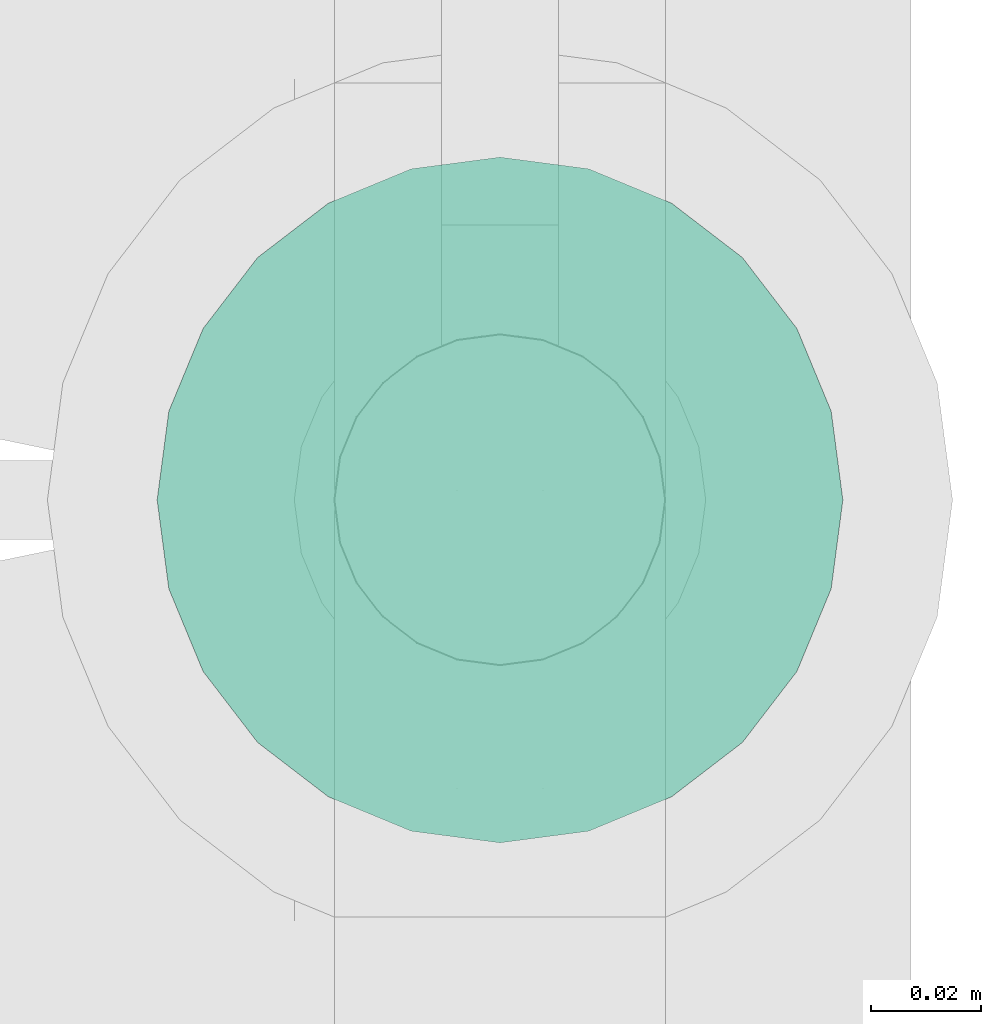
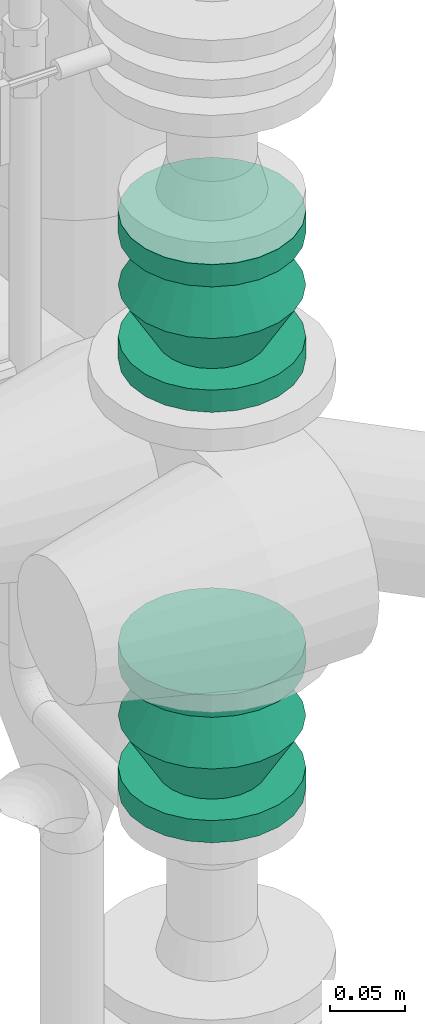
# One storey, part 287 of 374: 2 flow segments.
"""IFC2X3 building model written with IfcOpenShell, lengths in metres."""

from ifc_helpers import new_model, si_unit, direction, origin, place, context, subcontext, project, spatial, open_shell, surface_model, source, transform, mapped, element, save


model = new_model("IFC2X3")

# Units and contexts
model_context = context("Model", 3, precision=1e-05, world=origin(), true_north=direction((-0.4480736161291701, 0.8939966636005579)))
body_context = subcontext(model_context, "Body", "Model", "MODEL_VIEW")
ifc_project = project(units=[si_unit("LENGTHUNIT", "METRE"), si_unit("AREAUNIT", "SQUARE_METRE"), si_unit("VOLUMEUNIT", "CUBIC_METRE"), si_unit("PLANEANGLEUNIT", "RADIAN"), si_unit("THERMODYNAMICTEMPERATUREUNIT", "KELVIN"), si_unit("MASSUNIT", "GRAM", prefix="KILO"), si_unit("TIMEUNIT", "SECOND")], contexts=[model_context])

# Site, building, storey
site_placement = place(None, origin())
site = spatial("IfcSite", under=ifc_project, at=site_placement, Name="Site 1", CompositionType="ELEMENT")
building_placement = place(site_placement, origin())
building = spatial("IfcBuilding", under=site, at=building_placement, Name="Undefined", CompositionType="ELEMENT")
storey_placement = place(building_placement, origin())
storey = spatial("IfcBuildingStorey", under=building, at=storey_placement, Name="Rez de chauss\x8ee", CompositionType="ELEMENT", Elevation=0.0)

# Flow segments
shared_shape_1 = source(origin(), body_context, "Body", "SurfaceModel", [
    surface_model("IfcFaceBasedSurfaceModel", [(0.0, 0.0163157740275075, 0.0), (0.0, 0.0, 0.0), (0.018000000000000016, 0.0, 1.776356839e-15), (0.018000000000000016, 0.016315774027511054, 0.0), (0.0, -0.015759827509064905, -0.004222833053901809), (0.018000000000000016, -0.01575982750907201, -0.004222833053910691), (0.0, -0.029889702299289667, -0.012380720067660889), (0.018000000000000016, -0.02988970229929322, -0.012380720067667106), (0.0, -0.04142669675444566, -0.02391771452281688), (0.018000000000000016, -0.041426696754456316, -0.023917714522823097), (0.0, -0.04958458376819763, -0.038047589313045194), (0.018000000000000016, -0.04958458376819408, -0.0380475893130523), (0.0, -0.053807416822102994, -0.053807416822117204), (0.018000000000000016, -0.0538074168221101, -0.05380741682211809), (0.0, -0.053807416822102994, -0.07012319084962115), (0.018000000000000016, -0.053807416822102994, -0.07012319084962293), (0.0, -0.04958458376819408, -0.08588301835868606), (0.018000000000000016, -0.049584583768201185, -0.08588301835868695), (0.0, -0.04142669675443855, -0.10001289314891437), (0.018000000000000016, -0.041426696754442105, -0.10001289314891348), (0.0, -0.02988970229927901, -0.11154988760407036), (0.018000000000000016, -0.029889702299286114, -0.11154988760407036), (0.0, -0.015759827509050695, -0.11970777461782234), (0.018000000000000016, -0.015759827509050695, -0.11970777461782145), (0.0, 1.4210854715e-14, -0.12393060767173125), (0.018000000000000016, 1.4210854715e-14, -0.1239306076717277), (0.0, 0.016315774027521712, -0.12393060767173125), (0.018000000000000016, 0.016315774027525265, -0.12393060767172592), (0.0, 0.03207560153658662, -0.11970777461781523), (0.018000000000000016, 0.032075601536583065, -0.11970777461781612), (0.0, 0.04620547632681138, -0.11154988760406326), (0.018000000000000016, 0.04620547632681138, -0.11154988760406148), (0.0, 0.05774247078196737, -0.10001289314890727), (0.018000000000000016, 0.05774247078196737, -0.10001289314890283), (0.0, 0.06590035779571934, -0.08588301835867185), (0.018000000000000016, 0.06590035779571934, -0.08588301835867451), (0.0, 0.0701231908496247, -0.07012319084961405), (0.018000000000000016, 0.07012319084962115, -0.0701231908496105), (0.0, 0.0701231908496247, -0.05380741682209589), (0.018000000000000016, 0.07012319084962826, -0.05380741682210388), (0.0, 0.06590035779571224, -0.03804758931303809), (0.018000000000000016, 0.06590035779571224, -0.038047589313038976), (0.0, 0.05774247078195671, -0.023917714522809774), (0.018000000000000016, 0.057742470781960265, -0.023917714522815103), (0.0, 0.04620547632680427, -0.012380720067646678), (0.018000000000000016, 0.04620547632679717, -0.012380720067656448), (0.0, 0.03207560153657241, -0.004222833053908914), (0.018000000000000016, 0.03207560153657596, -0.004222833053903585), (0.0, 0.00815788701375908, -0.06196530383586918), (0.018000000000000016, 0.00815788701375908, -0.06196530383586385), (0.018000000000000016, -0.029021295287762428, -0.05707057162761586), (0.018000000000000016, -0.029021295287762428, -0.06686003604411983), (0.060000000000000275, -0.05380741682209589, -0.07012319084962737), (0.060000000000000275, -0.0538074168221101, -0.053807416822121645), (0.018000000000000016, -0.026487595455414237, -0.0763159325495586), (0.060000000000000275, -0.04958458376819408, -0.08588301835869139), (0.018000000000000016, -0.021592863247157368, -0.08479385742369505), (0.060000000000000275, -0.041426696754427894, -0.10001289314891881), (0.018000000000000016, -0.014670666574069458, -0.09171605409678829), (0.060000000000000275, -0.029889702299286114, -0.11154988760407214), (0.018000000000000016, -0.00619274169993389, -0.09661078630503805), (0.060000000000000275, -0.01575982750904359, -0.11970777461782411), (0.018000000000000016, 0.0032631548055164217, -0.0991444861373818), (0.060000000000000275, 1.4210854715e-14, -0.12393060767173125), (0.018000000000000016, 0.013052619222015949, -0.0991444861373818), (0.0600000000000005, 0.01631577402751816, -0.12393060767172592), (0.018000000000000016, 0.02250851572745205, -0.09661078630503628), (0.060000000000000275, 0.032075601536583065, -0.1197077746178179), (0.018000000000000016, 0.03098644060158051, -0.09171605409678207), (0.060000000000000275, 0.04620547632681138, -0.11154988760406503), (0.018000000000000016, 0.03790863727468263, -0.08479385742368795), (0.060000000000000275, 0.057742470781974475, -0.10001289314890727), (0.018000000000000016, 0.042803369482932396, -0.07631593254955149), (0.060000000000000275, 0.06590035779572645, -0.08588301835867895), (0.018000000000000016, 0.04533706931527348, -0.06686003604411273), (0.060000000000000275, 0.07012319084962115, -0.07012319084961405), (0.018000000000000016, 0.04533706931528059, -0.05707057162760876), (0.060000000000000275, 0.07012319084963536, -0.05380741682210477), (0.018000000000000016, 0.042803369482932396, -0.047614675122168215), (0.060000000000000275, 0.06590035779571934, -0.03804758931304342), (0.018000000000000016, 0.03790863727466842, -0.039136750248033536), (0.060000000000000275, 0.057742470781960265, -0.023917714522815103), (0.018000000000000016, 0.03098644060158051, -0.03221455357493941), (0.060000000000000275, 0.04620547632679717, -0.012380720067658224), (0.018000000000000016, 0.02250851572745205, -0.027319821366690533), (0.060000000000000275, 0.03207560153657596, -0.004222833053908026), (0.018000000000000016, 0.013052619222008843, -0.024786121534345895), (0.060000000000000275, 0.016315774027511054, -3.552713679e-15), (0.018000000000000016, 0.003263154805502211, -0.024786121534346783), (0.06000000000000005, 8.8817842e-16, 0.0), (0.018000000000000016, -0.006192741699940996, -0.02731982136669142), (0.060000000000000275, -0.01575982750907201, -0.004222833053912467), (0.018000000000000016, -0.014670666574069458, -0.032214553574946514), (0.060000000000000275, -0.02988970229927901, -0.012380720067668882), (0.018000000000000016, -0.021592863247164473, -0.039136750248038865), (0.060000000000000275, -0.04142669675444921, -0.023917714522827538), (0.018000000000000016, -0.026487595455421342, -0.0476146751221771), (0.060000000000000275, -0.049584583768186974, -0.03804758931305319), (0.10200000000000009, -0.029021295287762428, -0.06686003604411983), (0.10200000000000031, -0.029021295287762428, -0.05707057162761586), (0.10200000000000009, -0.026487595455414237, -0.0763159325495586), (0.10200000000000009, -0.021592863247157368, -0.08479385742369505), (0.10200000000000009, -0.014670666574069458, -0.09171605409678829), (0.10200000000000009, -0.00619274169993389, -0.09661078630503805), (0.10200000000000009, 0.0032631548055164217, -0.0991444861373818), (0.10200000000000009, 0.013052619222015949, -0.0991444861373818), (0.10200000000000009, 0.02250851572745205, -0.09661078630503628), (0.10200000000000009, 0.03098644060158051, -0.09171605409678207), (0.10200000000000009, 0.03790863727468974, -0.08479385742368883), (0.10200000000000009, 0.042803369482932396, -0.07631593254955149), (0.10200000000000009, 0.04533706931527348, -0.06686003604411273), (0.10200000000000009, 0.04533706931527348, -0.057070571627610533), (0.10200000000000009, 0.0428033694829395, -0.0476146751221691), (0.10200000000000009, 0.03790863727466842, -0.03913675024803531), (0.10200000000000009, 0.03098644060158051, -0.03221455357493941), (0.10200000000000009, 0.02250851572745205, -0.027319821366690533), (0.10200000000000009, 0.013052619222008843, -0.024786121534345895), (0.10200000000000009, 0.003263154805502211, -0.024786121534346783), (0.10200000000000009, -0.006192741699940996, -0.02731982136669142), (0.10200000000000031, -0.014670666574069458, -0.03221455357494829), (0.10200000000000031, -0.021592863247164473, -0.039136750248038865), (0.10200000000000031, -0.026487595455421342, -0.04761467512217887), (0.10200000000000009, 0.016315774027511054, 0.0), (0.10200000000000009, 0.0, 8.8817842e-16), (0.1200000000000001, 0.0, 8.8817842e-16), (0.1200000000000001, 0.016315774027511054, 0.0), (0.10200000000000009, -0.01575982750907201, -0.004222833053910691), (0.1200000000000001, -0.01575982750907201, -0.004222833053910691), (0.10200000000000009, -0.02988970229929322, -0.012380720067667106), (0.1200000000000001, -0.02988970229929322, -0.012380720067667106), (0.10200000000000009, -0.041426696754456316, -0.023917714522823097), (0.1200000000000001, -0.041426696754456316, -0.023917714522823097), (0.10200000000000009, -0.04958458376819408, -0.0380475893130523), (0.1200000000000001, -0.04958458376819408, -0.0380475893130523), (0.10200000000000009, -0.0538074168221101, -0.05380741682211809), (0.1200000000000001, -0.0538074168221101, -0.05380741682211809), (0.10200000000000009, -0.053807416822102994, -0.07012319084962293), (0.1200000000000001, -0.053807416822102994, -0.07012319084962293), (0.10200000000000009, -0.049584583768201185, -0.08588301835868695), (0.1200000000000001, -0.049584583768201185, -0.08588301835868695), (0.10200000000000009, -0.041426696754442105, -0.10001289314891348), (0.1200000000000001, -0.041426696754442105, -0.10001289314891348), (0.10200000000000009, -0.029889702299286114, -0.11154988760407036), (0.1200000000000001, -0.029889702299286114, -0.11154988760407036), (0.10200000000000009, -0.015759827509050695, -0.11970777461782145), (0.1200000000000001, -0.015759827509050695, -0.11970777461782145), (0.10200000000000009, 1.4210854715e-14, -0.1239306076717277), (0.1200000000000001, 1.4210854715e-14, -0.1239306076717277), (0.10200000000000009, 0.016315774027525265, -0.12393060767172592), (0.1200000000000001, 0.016315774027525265, -0.12393060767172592), (0.10200000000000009, 0.032075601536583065, -0.11970777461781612), (0.1200000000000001, 0.032075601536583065, -0.11970777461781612), (0.10200000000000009, 0.04620547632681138, -0.11154988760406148), (0.1200000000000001, 0.04620547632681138, -0.11154988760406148), (0.10200000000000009, 0.05774247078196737, -0.10001289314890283), (0.1200000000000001, 0.05774247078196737, -0.10001289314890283), (0.10200000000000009, 0.06590035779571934, -0.08588301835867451), (0.1200000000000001, 0.06590035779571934, -0.08588301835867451), (0.10200000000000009, 0.07012319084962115, -0.0701231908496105), (0.1200000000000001, 0.07012319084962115, -0.0701231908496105), (0.10200000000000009, 0.07012319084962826, -0.05380741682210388), (0.1200000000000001, 0.07012319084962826, -0.05380741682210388), (0.10200000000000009, 0.06590035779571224, -0.038047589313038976), (0.1200000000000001, 0.06590035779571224, -0.038047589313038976), (0.10200000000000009, 0.057742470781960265, -0.023917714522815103), (0.1200000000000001, 0.057742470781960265, -0.023917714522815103), (0.10200000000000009, 0.04620547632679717, -0.012380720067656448), (0.1200000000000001, 0.04620547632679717, -0.012380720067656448), (0.10200000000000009, 0.03207560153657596, -0.004222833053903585), (0.1200000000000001, 0.03207560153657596, -0.004222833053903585), (0.10200000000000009, 0.00815788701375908, -0.06196530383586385), (0.1200000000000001, 0.00815788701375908, -0.06196530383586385)], [open_shell([[[0, 1, 2, 3]], [[1, 4, 5, 2]], [[4, 6, 7, 5]], [[6, 8, 9, 7]], [[8, 10, 11, 9]], [[10, 12, 13, 11]], [[12, 14, 15, 13]], [[14, 16, 17, 15]], [[16, 18, 19, 17]], [[18, 20, 21, 19]], [[20, 22, 23, 21]], [[22, 24, 25, 23]], [[24, 26, 27, 25]], [[26, 28, 29, 27]], [[28, 30, 31, 29]], [[30, 32, 33, 31]], [[32, 34, 35, 33]], [[34, 36, 37, 35]], [[36, 38, 39, 37]], [[38, 40, 41, 39]], [[40, 42, 43, 41]], [[42, 44, 45, 43]], [[44, 46, 47, 45]], [[46, 0, 3, 47]], [[48, 1, 0]], [[48, 4, 1]], [[48, 6, 4]], [[48, 8, 6]], [[48, 10, 8]], [[48, 12, 10]], [[48, 14, 12]], [[48, 16, 14]], [[48, 18, 16]], [[48, 20, 18]], [[48, 22, 20]], [[48, 24, 22]], [[48, 26, 24]], [[48, 28, 26]], [[48, 30, 28]], [[48, 32, 30]], [[48, 34, 32]], [[48, 36, 34]], [[48, 38, 36]], [[48, 40, 38]], [[48, 42, 40]], [[48, 44, 42]], [[48, 46, 44]], [[48, 0, 46]], [[49, 47, 3]], [[49, 45, 47]], [[49, 43, 45]], [[49, 41, 43]], [[49, 39, 41]], [[49, 37, 39]], [[49, 35, 37]], [[49, 33, 35]], [[49, 31, 33]], [[49, 29, 31]], [[49, 27, 29]], [[49, 25, 27]], [[49, 23, 25]], [[49, 21, 23]], [[49, 19, 21]], [[49, 17, 19]], [[49, 15, 17]], [[49, 13, 15]], [[49, 11, 13]], [[49, 9, 11]], [[49, 7, 9]], [[49, 5, 7]], [[49, 2, 5]], [[49, 3, 2]], [[50, 51, 52, 53]], [[51, 54, 55, 52]], [[54, 56, 57, 55]], [[56, 58, 59, 57]], [[58, 60, 61, 59]], [[60, 62, 63, 61]], [[62, 64, 65, 63]], [[64, 66, 67, 65]], [[66, 68, 69, 67]], [[68, 70, 71, 69]], [[70, 72, 73, 71]], [[72, 74, 75, 73]], [[74, 76, 77, 75]], [[76, 78, 79, 77]], [[78, 80, 81, 79]], [[80, 82, 83, 81]], [[82, 84, 85, 83]], [[84, 86, 87, 85]], [[86, 88, 89, 87]], [[88, 90, 91, 89]], [[90, 92, 93, 91]], [[92, 94, 95, 93]], [[94, 96, 97, 95]], [[96, 50, 53, 97]], [[53, 52, 98, 99]], [[52, 55, 100, 98]], [[55, 57, 101, 100]], [[57, 59, 102, 101]], [[59, 61, 103, 102]], [[61, 63, 104, 103]], [[63, 65, 105, 104]], [[65, 67, 106, 105]], [[67, 69, 107, 106]], [[69, 71, 108, 107]], [[71, 73, 109, 108]], [[73, 75, 110, 109]], [[75, 77, 111, 110]], [[77, 79, 112, 111]], [[79, 81, 113, 112]], [[81, 83, 114, 113]], [[83, 85, 115, 114]], [[85, 87, 116, 115]], [[87, 89, 117, 116]], [[89, 91, 118, 117]], [[91, 93, 119, 118]], [[93, 95, 120, 119]], [[95, 97, 121, 120]], [[97, 53, 99, 121]], [[122, 123, 124, 125]], [[123, 126, 127, 124]], [[126, 128, 129, 127]], [[128, 130, 131, 129]], [[130, 132, 133, 131]], [[132, 134, 135, 133]], [[134, 136, 137, 135]], [[136, 138, 139, 137]], [[138, 140, 141, 139]], [[140, 142, 143, 141]], [[142, 144, 145, 143]], [[144, 146, 147, 145]], [[146, 148, 149, 147]], [[148, 150, 151, 149]], [[150, 152, 153, 151]], [[152, 154, 155, 153]], [[154, 156, 157, 155]], [[156, 158, 159, 157]], [[158, 160, 161, 159]], [[160, 162, 163, 161]], [[162, 164, 165, 163]], [[164, 166, 167, 165]], [[166, 168, 169, 167]], [[168, 122, 125, 169]], [[170, 123, 122]], [[170, 126, 123]], [[170, 128, 126]], [[170, 130, 128]], [[170, 132, 130]], [[170, 134, 132]], [[170, 136, 134]], [[170, 138, 136]], [[170, 140, 138]], [[170, 142, 140]], [[170, 144, 142]], [[170, 146, 144]], [[170, 148, 146]], [[170, 150, 148]], [[170, 152, 150]], [[170, 154, 152]], [[170, 156, 154]], [[170, 158, 156]], [[170, 160, 158]], [[170, 162, 160]], [[170, 164, 162]], [[170, 166, 164]], [[170, 168, 166]], [[170, 122, 168]], [[171, 169, 125]], [[171, 167, 169]], [[171, 165, 167]], [[171, 163, 165]], [[171, 161, 163]], [[171, 159, 161]], [[171, 157, 159]], [[171, 155, 157]], [[171, 153, 155]], [[171, 151, 153]], [[171, 149, 151]], [[171, 147, 149]], [[171, 145, 147]], [[171, 143, 145]], [[171, 141, 143]], [[171, 139, 141]], [[171, 137, 139]], [[171, 135, 137]], [[171, 133, 135]], [[171, 131, 133]], [[171, 129, 131]], [[171, 127, 129]], [[171, 124, 127]], [[171, 125, 124]]])]),
])
flow_segment_1_placement = place(storey_placement, origin())
element("IfcFlowSegment", 1, at=flow_segment_1_placement, inside=storey, Name="Anti-vibratile", ObjectType="Anti-vibratile", context=body_context, shape_type="MappedRepresentation", body=[
    mapped(shared_shape_1, transform((55.015505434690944, 11.93730606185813, 1.091175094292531), x_axis=(0.0, 0.0, 1.0), y_axis=(-0.9914448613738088, -0.13052619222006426, 0.0), z_axis=(0.13052619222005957, -0.9914448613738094, 0.0))),
])
shared_shape_2 = source(origin(), body_context, "Body", "SurfaceModel", [
    surface_model("IfcFaceBasedSurfaceModel", [(0.0, 0.0163157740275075, 0.0), (0.0, 0.0, 0.0), (0.018000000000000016, 0.0, 1.776356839e-15), (0.018000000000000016, 0.016315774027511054, 0.0), (0.0, -0.015759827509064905, -0.004222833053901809), (0.018000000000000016, -0.01575982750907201, -0.004222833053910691), (0.0, -0.029889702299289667, -0.012380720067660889), (0.018000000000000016, -0.02988970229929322, -0.012380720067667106), (0.0, -0.04142669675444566, -0.02391771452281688), (0.018000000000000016, -0.041426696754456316, -0.023917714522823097), (0.0, -0.04958458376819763, -0.038047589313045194), (0.018000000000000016, -0.04958458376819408, -0.0380475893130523), (0.0, -0.053807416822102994, -0.053807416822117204), (0.018000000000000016, -0.0538074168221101, -0.05380741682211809), (0.0, -0.053807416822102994, -0.07012319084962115), (0.018000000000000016, -0.053807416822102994, -0.07012319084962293), (0.0, -0.04958458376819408, -0.08588301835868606), (0.018000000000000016, -0.049584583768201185, -0.08588301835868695), (0.0, -0.04142669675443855, -0.10001289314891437), (0.018000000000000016, -0.041426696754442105, -0.10001289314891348), (0.0, -0.02988970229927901, -0.11154988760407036), (0.018000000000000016, -0.029889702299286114, -0.11154988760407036), (0.0, -0.015759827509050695, -0.11970777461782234), (0.018000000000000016, -0.015759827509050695, -0.11970777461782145), (0.0, 1.4210854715e-14, -0.12393060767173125), (0.018000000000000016, 1.4210854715e-14, -0.1239306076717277), (0.0, 0.016315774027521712, -0.12393060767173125), (0.018000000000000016, 0.016315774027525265, -0.12393060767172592), (0.0, 0.03207560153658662, -0.11970777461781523), (0.018000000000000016, 0.032075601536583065, -0.11970777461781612), (0.0, 0.04620547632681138, -0.11154988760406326), (0.018000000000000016, 0.04620547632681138, -0.11154988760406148), (0.0, 0.05774247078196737, -0.10001289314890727), (0.018000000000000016, 0.05774247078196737, -0.10001289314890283), (0.0, 0.06590035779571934, -0.08588301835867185), (0.018000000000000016, 0.06590035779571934, -0.08588301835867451), (0.0, 0.0701231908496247, -0.07012319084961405), (0.018000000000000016, 0.07012319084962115, -0.0701231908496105), (0.0, 0.0701231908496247, -0.05380741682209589), (0.018000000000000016, 0.07012319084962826, -0.05380741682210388), (0.0, 0.06590035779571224, -0.03804758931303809), (0.018000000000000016, 0.06590035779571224, -0.038047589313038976), (0.0, 0.05774247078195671, -0.023917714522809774), (0.018000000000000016, 0.057742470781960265, -0.023917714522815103), (0.0, 0.04620547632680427, -0.012380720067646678), (0.018000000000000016, 0.04620547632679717, -0.012380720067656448), (0.0, 0.03207560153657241, -0.004222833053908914), (0.018000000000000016, 0.03207560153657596, -0.004222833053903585), (0.0, 0.00815788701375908, -0.06196530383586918), (0.018000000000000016, 0.00815788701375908, -0.06196530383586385), (0.018000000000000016, 0.04533706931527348, -0.06686003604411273), (0.018000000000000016, 0.04533706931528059, -0.05707057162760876), (0.060000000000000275, 0.07012319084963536, -0.05380741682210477), (0.060000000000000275, 0.07012319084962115, -0.07012319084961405), (0.018000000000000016, 0.042803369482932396, -0.047614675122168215), (0.060000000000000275, 0.06590035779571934, -0.03804758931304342), (0.018000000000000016, 0.03790863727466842, -0.039136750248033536), (0.060000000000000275, 0.057742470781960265, -0.023917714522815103), (0.018000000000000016, 0.03098644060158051, -0.03221455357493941), (0.060000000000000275, 0.04620547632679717, -0.012380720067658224), (0.018000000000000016, 0.02250851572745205, -0.027319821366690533), (0.060000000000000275, 0.03207560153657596, -0.004222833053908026), (0.018000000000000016, 0.013052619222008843, -0.024786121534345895), (0.060000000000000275, 0.016315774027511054, -3.552713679e-15), (0.018000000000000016, 0.003263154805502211, -0.024786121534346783), (0.06000000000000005, 8.8817842e-16, 0.0), (0.018000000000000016, -0.006192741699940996, -0.02731982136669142), (0.060000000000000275, -0.01575982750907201, -0.004222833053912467), (0.018000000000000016, -0.014670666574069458, -0.032214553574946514), (0.060000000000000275, -0.02988970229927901, -0.012380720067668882), (0.018000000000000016, -0.021592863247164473, -0.039136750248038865), (0.060000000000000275, -0.04142669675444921, -0.023917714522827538), (0.018000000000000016, -0.026487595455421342, -0.0476146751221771), (0.060000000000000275, -0.049584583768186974, -0.03804758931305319), (0.018000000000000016, -0.029021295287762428, -0.05707057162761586), (0.060000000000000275, -0.0538074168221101, -0.053807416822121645), (0.018000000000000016, -0.029021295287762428, -0.06686003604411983), (0.060000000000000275, -0.05380741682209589, -0.07012319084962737), (0.018000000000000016, -0.026487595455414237, -0.0763159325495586), (0.060000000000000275, -0.04958458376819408, -0.08588301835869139), (0.018000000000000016, -0.021592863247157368, -0.08479385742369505), (0.060000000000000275, -0.041426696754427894, -0.10001289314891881), (0.018000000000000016, -0.014670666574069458, -0.09171605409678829), (0.060000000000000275, -0.029889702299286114, -0.11154988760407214), (0.018000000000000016, -0.00619274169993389, -0.09661078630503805), (0.060000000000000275, -0.01575982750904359, -0.11970777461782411), (0.018000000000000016, 0.0032631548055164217, -0.0991444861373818), (0.060000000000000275, 1.4210854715e-14, -0.12393060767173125), (0.018000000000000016, 0.013052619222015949, -0.0991444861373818), (0.0600000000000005, 0.01631577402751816, -0.12393060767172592), (0.018000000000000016, 0.02250851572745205, -0.09661078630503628), (0.060000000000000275, 0.032075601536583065, -0.1197077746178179), (0.018000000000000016, 0.03098644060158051, -0.09171605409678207), (0.060000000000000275, 0.04620547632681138, -0.11154988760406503), (0.018000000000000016, 0.03790863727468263, -0.08479385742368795), (0.060000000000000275, 0.057742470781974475, -0.10001289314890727), (0.018000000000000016, 0.042803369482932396, -0.07631593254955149), (0.060000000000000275, 0.06590035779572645, -0.08588301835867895), (0.10200000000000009, 0.04533706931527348, -0.057070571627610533), (0.10200000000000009, 0.04533706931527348, -0.06686003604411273), (0.10200000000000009, 0.0428033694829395, -0.0476146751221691), (0.10200000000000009, 0.03790863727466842, -0.03913675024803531), (0.10200000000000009, 0.03098644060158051, -0.03221455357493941), (0.10200000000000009, 0.02250851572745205, -0.027319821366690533), (0.10200000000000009, 0.013052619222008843, -0.024786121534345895), (0.10200000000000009, 0.003263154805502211, -0.024786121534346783), (0.10200000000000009, -0.006192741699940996, -0.02731982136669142), (0.10200000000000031, -0.014670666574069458, -0.03221455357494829), (0.10200000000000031, -0.021592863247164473, -0.039136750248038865), (0.10200000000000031, -0.026487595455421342, -0.04761467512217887), (0.10200000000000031, -0.029021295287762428, -0.05707057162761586), (0.10200000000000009, -0.029021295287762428, -0.06686003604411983), (0.10200000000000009, -0.026487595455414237, -0.0763159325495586), (0.10200000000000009, -0.021592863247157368, -0.08479385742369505), (0.10200000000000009, -0.014670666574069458, -0.09171605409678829), (0.10200000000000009, -0.00619274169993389, -0.09661078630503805), (0.10200000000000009, 0.0032631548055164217, -0.0991444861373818), (0.10200000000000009, 0.013052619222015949, -0.0991444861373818), (0.10200000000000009, 0.02250851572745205, -0.09661078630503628), (0.10200000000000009, 0.03098644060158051, -0.09171605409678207), (0.10200000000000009, 0.03790863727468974, -0.08479385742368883), (0.10200000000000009, 0.042803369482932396, -0.07631593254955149), (0.10200000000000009, 0.016315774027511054, 0.0), (0.10200000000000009, 0.0, 8.8817842e-16), (0.1200000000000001, 0.0, 8.8817842e-16), (0.1200000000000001, 0.016315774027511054, 0.0), (0.10200000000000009, -0.01575982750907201, -0.004222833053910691), (0.1200000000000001, -0.01575982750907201, -0.004222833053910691), (0.10200000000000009, -0.02988970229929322, -0.012380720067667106), (0.1200000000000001, -0.02988970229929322, -0.012380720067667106), (0.10200000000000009, -0.041426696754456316, -0.023917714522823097), (0.1200000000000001, -0.041426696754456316, -0.023917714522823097), (0.10200000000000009, -0.04958458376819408, -0.0380475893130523), (0.1200000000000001, -0.04958458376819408, -0.0380475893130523), (0.10200000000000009, -0.0538074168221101, -0.05380741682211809), (0.1200000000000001, -0.0538074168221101, -0.05380741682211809), (0.10200000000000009, -0.053807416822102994, -0.07012319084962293), (0.1200000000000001, -0.053807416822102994, -0.07012319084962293), (0.10200000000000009, -0.049584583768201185, -0.08588301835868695), (0.1200000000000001, -0.049584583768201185, -0.08588301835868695), (0.10200000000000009, -0.041426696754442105, -0.10001289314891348), (0.1200000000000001, -0.041426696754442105, -0.10001289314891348), (0.10200000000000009, -0.029889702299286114, -0.11154988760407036), (0.1200000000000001, -0.029889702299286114, -0.11154988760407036), (0.10200000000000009, -0.015759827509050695, -0.11970777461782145), (0.1200000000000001, -0.015759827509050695, -0.11970777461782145), (0.10200000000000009, 1.4210854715e-14, -0.1239306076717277), (0.1200000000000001, 1.4210854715e-14, -0.1239306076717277), (0.10200000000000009, 0.016315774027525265, -0.12393060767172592), (0.1200000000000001, 0.016315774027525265, -0.12393060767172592), (0.10200000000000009, 0.032075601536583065, -0.11970777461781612), (0.1200000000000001, 0.032075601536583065, -0.11970777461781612), (0.10200000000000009, 0.04620547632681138, -0.11154988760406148), (0.1200000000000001, 0.04620547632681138, -0.11154988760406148), (0.10200000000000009, 0.05774247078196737, -0.10001289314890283), (0.1200000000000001, 0.05774247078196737, -0.10001289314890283), (0.10200000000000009, 0.06590035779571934, -0.08588301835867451), (0.1200000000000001, 0.06590035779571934, -0.08588301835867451), (0.10200000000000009, 0.07012319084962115, -0.0701231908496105), (0.1200000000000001, 0.07012319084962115, -0.0701231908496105), (0.10200000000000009, 0.07012319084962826, -0.05380741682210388), (0.1200000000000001, 0.07012319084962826, -0.05380741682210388), (0.10200000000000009, 0.06590035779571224, -0.038047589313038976), (0.1200000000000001, 0.06590035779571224, -0.038047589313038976), (0.10200000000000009, 0.057742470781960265, -0.023917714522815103), (0.1200000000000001, 0.057742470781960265, -0.023917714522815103), (0.10200000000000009, 0.04620547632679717, -0.012380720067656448), (0.1200000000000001, 0.04620547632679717, -0.012380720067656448), (0.10200000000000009, 0.03207560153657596, -0.004222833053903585), (0.1200000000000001, 0.03207560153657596, -0.004222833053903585), (0.10200000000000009, 0.00815788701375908, -0.06196530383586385), (0.1200000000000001, 0.00815788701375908, -0.06196530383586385)], [open_shell([[[0, 1, 2, 3]], [[1, 4, 5, 2]], [[4, 6, 7, 5]], [[6, 8, 9, 7]], [[8, 10, 11, 9]], [[10, 12, 13, 11]], [[12, 14, 15, 13]], [[14, 16, 17, 15]], [[16, 18, 19, 17]], [[18, 20, 21, 19]], [[20, 22, 23, 21]], [[22, 24, 25, 23]], [[24, 26, 27, 25]], [[26, 28, 29, 27]], [[28, 30, 31, 29]], [[30, 32, 33, 31]], [[32, 34, 35, 33]], [[34, 36, 37, 35]], [[36, 38, 39, 37]], [[38, 40, 41, 39]], [[40, 42, 43, 41]], [[42, 44, 45, 43]], [[44, 46, 47, 45]], [[46, 0, 3, 47]], [[48, 1, 0]], [[48, 4, 1]], [[48, 6, 4]], [[48, 8, 6]], [[48, 10, 8]], [[48, 12, 10]], [[48, 14, 12]], [[48, 16, 14]], [[48, 18, 16]], [[48, 20, 18]], [[48, 22, 20]], [[48, 24, 22]], [[48, 26, 24]], [[48, 28, 26]], [[48, 30, 28]], [[48, 32, 30]], [[48, 34, 32]], [[48, 36, 34]], [[48, 38, 36]], [[48, 40, 38]], [[48, 42, 40]], [[48, 44, 42]], [[48, 46, 44]], [[48, 0, 46]], [[49, 47, 3]], [[49, 45, 47]], [[49, 43, 45]], [[49, 41, 43]], [[49, 39, 41]], [[49, 37, 39]], [[49, 35, 37]], [[49, 33, 35]], [[49, 31, 33]], [[49, 29, 31]], [[49, 27, 29]], [[49, 25, 27]], [[49, 23, 25]], [[49, 21, 23]], [[49, 19, 21]], [[49, 17, 19]], [[49, 15, 17]], [[49, 13, 15]], [[49, 11, 13]], [[49, 9, 11]], [[49, 7, 9]], [[49, 5, 7]], [[49, 2, 5]], [[49, 3, 2]], [[50, 51, 52, 53]], [[51, 54, 55, 52]], [[54, 56, 57, 55]], [[56, 58, 59, 57]], [[58, 60, 61, 59]], [[60, 62, 63, 61]], [[62, 64, 65, 63]], [[64, 66, 67, 65]], [[66, 68, 69, 67]], [[68, 70, 71, 69]], [[70, 72, 73, 71]], [[72, 74, 75, 73]], [[74, 76, 77, 75]], [[76, 78, 79, 77]], [[78, 80, 81, 79]], [[80, 82, 83, 81]], [[82, 84, 85, 83]], [[84, 86, 87, 85]], [[86, 88, 89, 87]], [[88, 90, 91, 89]], [[90, 92, 93, 91]], [[92, 94, 95, 93]], [[94, 96, 97, 95]], [[96, 50, 53, 97]], [[53, 52, 98, 99]], [[52, 55, 100, 98]], [[55, 57, 101, 100]], [[57, 59, 102, 101]], [[59, 61, 103, 102]], [[61, 63, 104, 103]], [[63, 65, 105, 104]], [[65, 67, 106, 105]], [[67, 69, 107, 106]], [[69, 71, 108, 107]], [[71, 73, 109, 108]], [[73, 75, 110, 109]], [[75, 77, 111, 110]], [[77, 79, 112, 111]], [[79, 81, 113, 112]], [[81, 83, 114, 113]], [[83, 85, 115, 114]], [[85, 87, 116, 115]], [[87, 89, 117, 116]], [[89, 91, 118, 117]], [[91, 93, 119, 118]], [[93, 95, 120, 119]], [[95, 97, 121, 120]], [[97, 53, 99, 121]], [[122, 123, 124, 125]], [[123, 126, 127, 124]], [[126, 128, 129, 127]], [[128, 130, 131, 129]], [[130, 132, 133, 131]], [[132, 134, 135, 133]], [[134, 136, 137, 135]], [[136, 138, 139, 137]], [[138, 140, 141, 139]], [[140, 142, 143, 141]], [[142, 144, 145, 143]], [[144, 146, 147, 145]], [[146, 148, 149, 147]], [[148, 150, 151, 149]], [[150, 152, 153, 151]], [[152, 154, 155, 153]], [[154, 156, 157, 155]], [[156, 158, 159, 157]], [[158, 160, 161, 159]], [[160, 162, 163, 161]], [[162, 164, 165, 163]], [[164, 166, 167, 165]], [[166, 168, 169, 167]], [[168, 122, 125, 169]], [[170, 123, 122]], [[170, 126, 123]], [[170, 128, 126]], [[170, 130, 128]], [[170, 132, 130]], [[170, 134, 132]], [[170, 136, 134]], [[170, 138, 136]], [[170, 140, 138]], [[170, 142, 140]], [[170, 144, 142]], [[170, 146, 144]], [[170, 148, 146]], [[170, 150, 148]], [[170, 152, 150]], [[170, 154, 152]], [[170, 156, 154]], [[170, 158, 156]], [[170, 160, 158]], [[170, 162, 160]], [[170, 164, 162]], [[170, 166, 164]], [[170, 168, 166]], [[170, 122, 168]], [[171, 169, 125]], [[171, 167, 169]], [[171, 165, 167]], [[171, 163, 165]], [[171, 161, 163]], [[171, 159, 161]], [[171, 157, 159]], [[171, 155, 157]], [[171, 153, 155]], [[171, 151, 153]], [[171, 149, 151]], [[171, 147, 149]], [[171, 145, 147]], [[171, 143, 145]], [[171, 141, 143]], [[171, 139, 141]], [[171, 137, 139]], [[171, 135, 137]], [[171, 133, 135]], [[171, 131, 133]], [[171, 129, 131]], [[171, 127, 129]], [[171, 124, 127]], [[171, 125, 124]]])]),
])
flow_segment_2_placement = place(storey_placement, origin())
element("IfcFlowSegment", 2, at=flow_segment_2_placement, inside=storey, Name="Anti-vibratile", ObjectType="Anti-vibratile", context=body_context, shape_type="MappedRepresentation", body=[
    mapped(shared_shape_2, transform((54.983153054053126, 11.93730606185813, 1.561175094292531), x_axis=(0.0, 0.0, -1.0), y_axis=(0.9914448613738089, -0.13052619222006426, 0.0), z_axis=(-0.13052619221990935, -0.9914448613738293, 0.0))),
])

save(model, "model.ifc")
